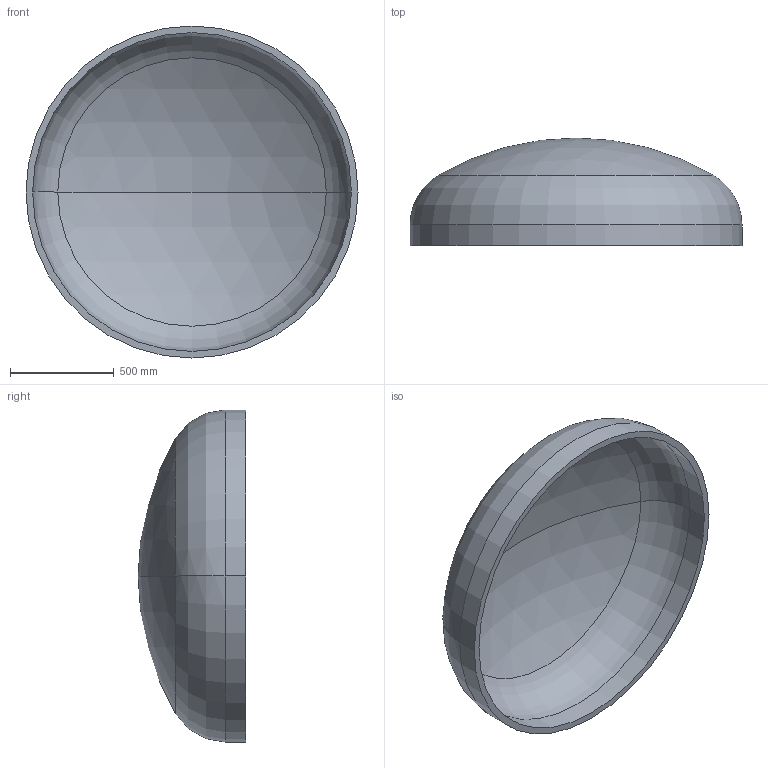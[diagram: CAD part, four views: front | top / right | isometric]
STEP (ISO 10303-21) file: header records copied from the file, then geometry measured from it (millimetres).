
FILE_DESCRIPTION (( 'STEP AP203' ), '1' );
FILE_NAME ('DIN 28013 Korbbogenform_-_Boden DIN 28013 - 1600 x 100 - I - s=32.step', '2016-07-01T11:12:34', ( '' ), ( '' ), 'SwSTEP 2.0', 'SolidWorks 2013', '' );
FILE_SCHEMA (( 'CONFIG_CONTROL_DESIGN' ));
Length unit declared in the file: millimetre
Products named in the file (1): DIN 28013 Korbbogenform_-_Boden DIN 28013 - 1600 x 100 - I - s=32
Bounding box: 1600 x 518.86 x 1600 mm (x, y, z)
Volume: 102459415.7 mm3; surface area: 6563488.7 mm2
Topology: 1 solids, 1 shells, 13 faces, 24 edges, 14 vertices
Faces by surface type: torus 4, cylinder 4, sphere 4, plane 1
Entity records: 407 total; most frequent: DIRECTION 72, CARTESIAN_POINT 52, ORIENTED_EDGE 48, AXIS2_PLACEMENT_3D 34, EDGE_CURVE 24, CIRCLE 20, VERTEX_POINT 14, EDGE_LOOP 14
